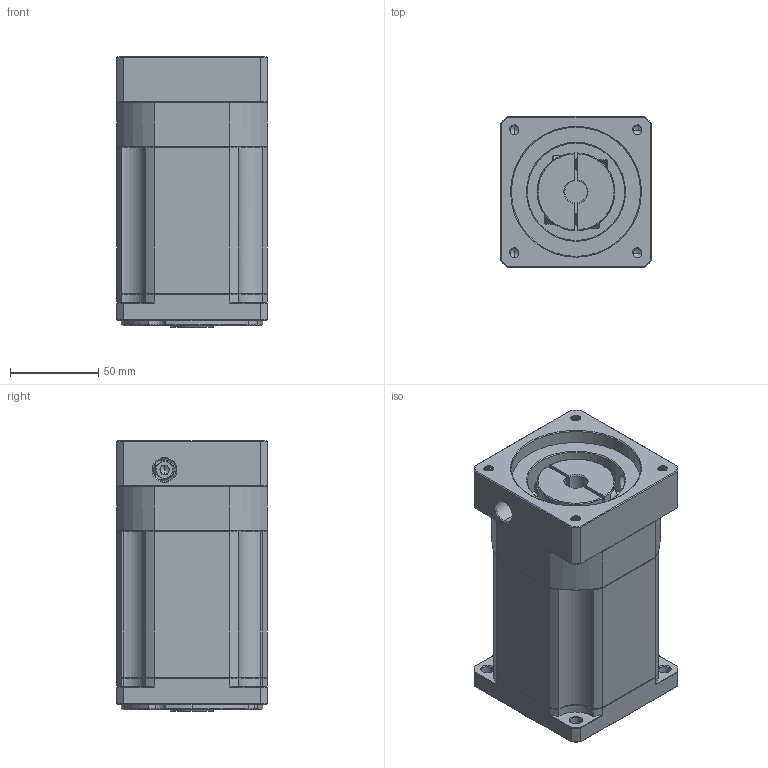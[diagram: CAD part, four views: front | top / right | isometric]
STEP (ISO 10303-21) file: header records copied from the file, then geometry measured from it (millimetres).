
FILE_DESCRIPTION (( 'STEP AP214' ), '1' );
FILE_NAME ('ZB090-K15-L3-P2-12.7-73-69.6X69.6-M6.step', '2023-08-18T12:18:46', ( '' ), ( '' ), 'SwSTEP 2.0', 'SolidWorks 2016', '' );
FILE_SCHEMA (( 'AUTOMOTIVE_DESIGN' ));
Length unit declared in the file: millimetre
Products named in the file (1): ZB090-K15-L3-P2-12.7-73-69.6X69.6-M6
Bounding box: 85 x 85 x 153 mm (x, y, z)
Volume: 895393.1 mm3; surface area: 99954.3 mm2
Topology: 4 solids, 5 shells, 2157 faces, 5730 edges, 3657 vertices
Faces by surface type: plane 1055, bspline 390, cylinder 358, cone 329, torus 25
Entity records: 114805 total; most frequent: CARTESIAN_POINT 40619, ORIENTED_EDGE 11420, DIRECTION 8979, EDGE_CURVE 5710, LINE 3669, VECTOR 3669, VERTEX_POINT 3657, AXIS2_PLACEMENT_3D 2655
